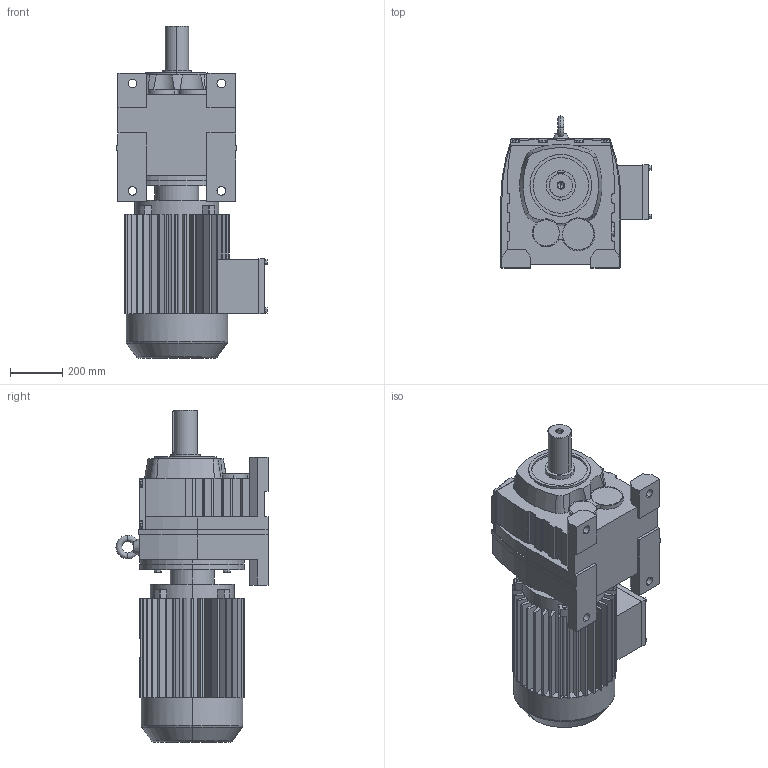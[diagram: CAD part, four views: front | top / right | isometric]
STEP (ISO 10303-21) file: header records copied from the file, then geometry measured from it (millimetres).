
FILE_DESCRIPTION(('Open CASCADE Model'),'2;1');
FILE_NAME('Open CASCADE Shape Model','2021-07-02T13:07:07',('Author'),( 'Open CASCADE'),'Open CASCADE STEP processor 6.3','Open CASCADE 6.3' ,'Unknown');
FILE_SCHEMA(('AUTOMOTIVE_DESIGN_CC2 { 1 2 10303 214 -1 1 5 4 }'));
Length unit declared in the file: millimetre
Products named in the file (3): 1_R137-Y225S; R37‵167_137.step; 萇儂_400_Y225S.step
Assembly tree (2 placements, depth 2):
  1_R137-Y225S
    R37‵167_137.step
    萇儂_400_Y225S.step
Bounding box: 574 x 581 x 1269 mm (x, y, z)
Volume: 146285636 mm3; surface area: 3611509.8 mm2
Topology: 2 solids, 2 shells, 736 faces, 1954 edges, 1263 vertices
Faces by surface type: plane 521, cylinder 185, cone 20, torus 10
Entity records: 51159 total; most frequent: CARTESIAN_POINT 13876, DIRECTION 6502, ORIENTED_EDGE 3904, PCURVE 3904, DEFINITIONAL_REPRESENTATION 3904, LINE 3641, VECTOR 3641, EDGE_CURVE 1952
